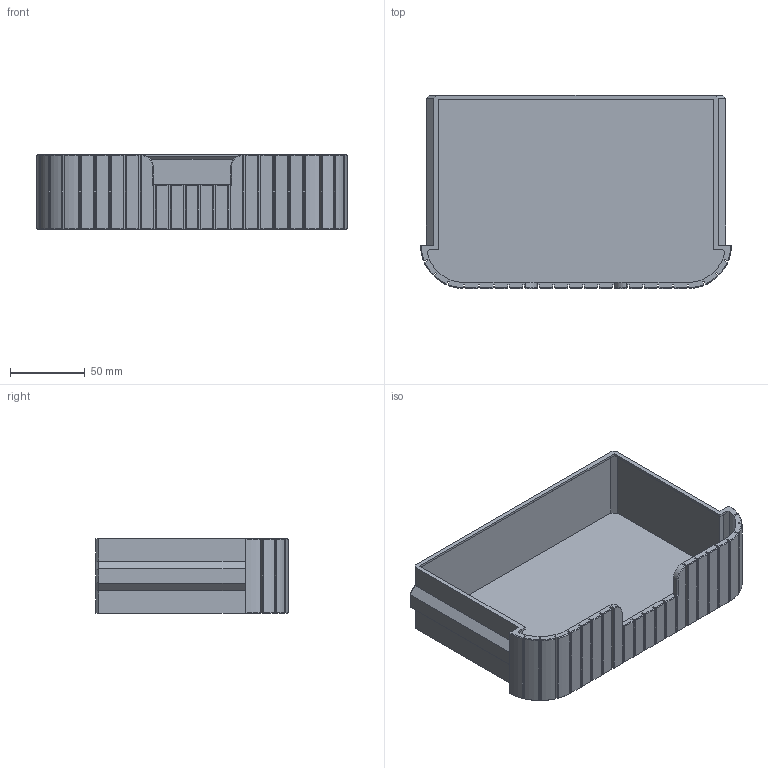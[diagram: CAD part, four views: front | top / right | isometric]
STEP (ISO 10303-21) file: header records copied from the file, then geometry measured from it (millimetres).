
FILE_DESCRIPTION(/* description */ (''),/* implementation_level */ '2;1');
FILE_NAME(/* name */ 'StackDrawerBox2-drawer1.step',/* time_stamp */ '2024-06-25T20:43:38+02:00',/* author */ (''),/* organization */ (''),/* preprocessor_version */ 'ST-DEVELOPER v20',/* originating_system */ 'Autodesk Translation Framework v13.14.0.145',/* authorisation */ '');
FILE_SCHEMA (('AUTOMOTIVE_DESIGN { 1 0 10303 214 3 1 1 }'));
Length unit declared in the file: millimetre
Products named in the file (2): StackDrawerBox2; Component1
Assembly tree (1 placements, depth 2):
  StackDrawerBox2
    Component1
Bounding box: 207.99 x 129 x 50 mm (x, y, z)
Volume: 121600.4 mm3; surface area: 115319.2 mm2
Topology: 1 solids, 1 shells, 242 faces, 632 edges, 392 vertices
Faces by surface type: plane 204, cylinder 20, cone 18
Entity records: 7274 total; most frequent: CARTESIAN_POINT 1421, ORIENTED_EDGE 1264, DIRECTION 1120, EDGE_CURVE 632, LINE 514, VECTOR 514, VERTEX_POINT 392, AXIS2_PLACEMENT_3D 303
